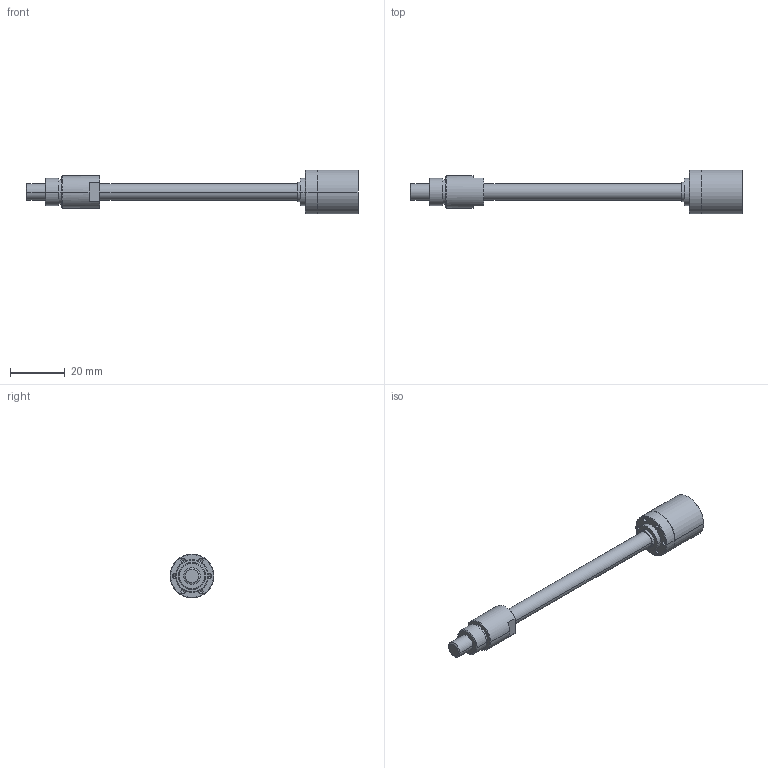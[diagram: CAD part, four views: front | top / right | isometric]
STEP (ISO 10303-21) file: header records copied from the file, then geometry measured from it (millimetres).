
FILE_DESCRIPTION((''),'2;1');
FILE_NAME('424231_GP16S_M-0ST','2016-10-05T',('mmagpetk'),(''),'CREO PARAMETRIC BY PTC INC, 2016050','CREO PARAMETRIC BY PTC INC, 2016050','');
FILE_SCHEMA(('CONFIG_CONTROL_DESIGN'));
Length unit declared in the file: millimetre
Products named in the file (1): 424231_GP16S_M-0ST
Bounding box: 121.2 x 16 x 16 mm (x, y, z)
Volume: 7857.3 mm3; surface area: 4346.1 mm2
Topology: 1 solids, 1 shells, 95 faces, 206 edges, 122 vertices
Faces by surface type: cylinder 44, cone 28, plane 21, torus 2
Entity records: 4358 total; most frequent: CARTESIAN_POINT 521, DIRECTION 484, ORIENTED_EDGE 388, PRESENTATION_STYLE_ASSIGNMENT 282, AXIS2_PLACEMENT_3D 203, STYLED_ITEM 195, CURVE_STYLE 194, EDGE_CURVE 194
